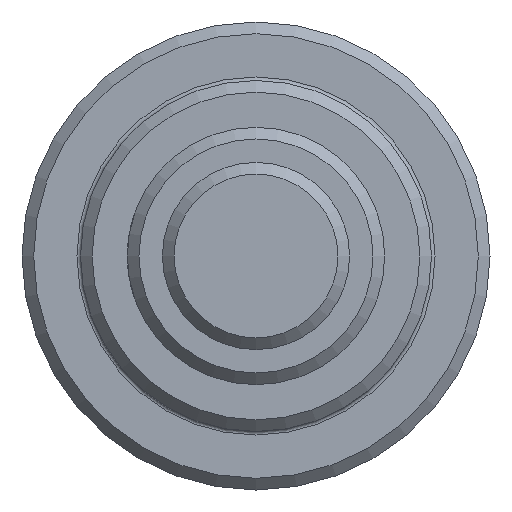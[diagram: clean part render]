
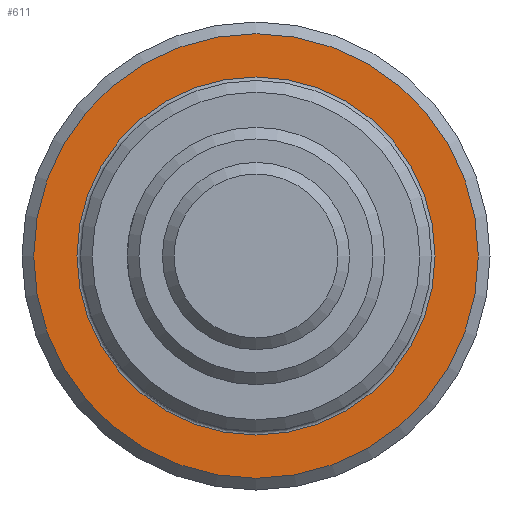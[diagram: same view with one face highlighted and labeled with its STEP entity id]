
A CAD part, left-side view. The second image highlights one B-rep face of the part: STEP entity #611.
In plain terms, the highlighted planar face has unit normal (-1, 0, 0).
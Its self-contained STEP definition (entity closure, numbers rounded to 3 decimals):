
#31=FACE_BOUND('',#125,.T.);
#47=PLANE('',#703);
#79=FACE_OUTER_BOUND('',#124,.T.);
#124=EDGE_LOOP('',(#521));
#125=EDGE_LOOP('',(#522));
#242=CIRCLE('',#702,19.);
#243=CIRCLE('',#704,15.3);
#301=VERTEX_POINT('',#1137);
#302=VERTEX_POINT('',#1141);
#379=EDGE_CURVE('',#301,#301,#242,.T.);
#380=EDGE_CURVE('',#302,#302,#243,.T.);
#521=ORIENTED_EDGE('',*,*,#379,.F.);
#522=ORIENTED_EDGE('',*,*,#380,.F.);
#611=ADVANCED_FACE('',(#79,#31),#47,.T.);
#702=AXIS2_PLACEMENT_3D('',#1139,#871,#872);
#703=AXIS2_PLACEMENT_3D('',#1140,#873,#874);
#704=AXIS2_PLACEMENT_3D('',#1142,#875,#876);
#871=DIRECTION('center_axis',(1.,0.,0.));
#872=DIRECTION('ref_axis',(0.,-1.,0.));
#873=DIRECTION('center_axis',(-1.,0.,0.));
#874=DIRECTION('ref_axis',(0.,0.,1.));
#875=DIRECTION('center_axis',(-1.,0.,0.));
#876=DIRECTION('ref_axis',(0.,-1.,0.));
#1137=CARTESIAN_POINT('',(90.,19.,0.));
#1139=CARTESIAN_POINT('Origin',(90.,0.,0.));
#1140=CARTESIAN_POINT('Origin',(90.,17.5,0.));
#1141=CARTESIAN_POINT('',(90.,0.,15.3));
#1142=CARTESIAN_POINT('Origin',(90.,0.,0.));
